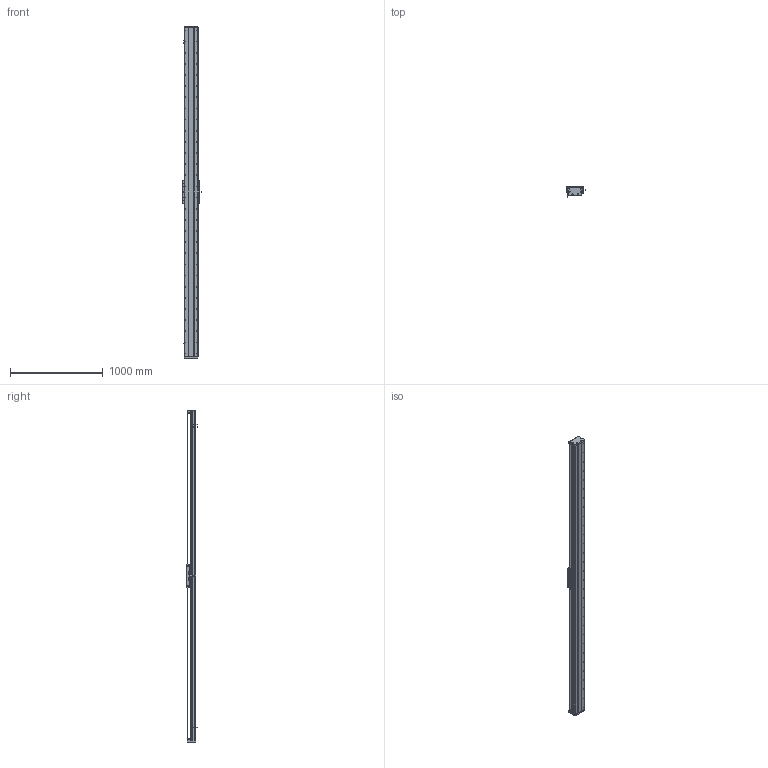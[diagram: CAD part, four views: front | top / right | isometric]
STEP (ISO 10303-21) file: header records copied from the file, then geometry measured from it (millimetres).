
FILE_DESCRIPTION (( 'STEP AP203' ), '1' );
FILE_NAME ('DA-C145-C3-T3240-C010-0.2 眻盄萇儂.STEP', '2025-08-14T01:38:01', ( '' ), ( '' ), 'SwSTEP 2.0', 'SolidWorks 2019', '' );
FILE_SCHEMA (( 'CONFIG_CONTROL_DESIGN' ));
Length unit declared in the file: millimetre
Products named in the file (32): 复件 纯铜油杯 6x6mm^CU145-W 滚珠滑台; 复件 DA95-DB-00  挡板^CU145-W 滚珠滑台; 葩璃 DA95-GT-T-00^IU-CU145-L 菁釱絳寢; TAY01-M8; 葩璃 DA145-C3-DP-A-00 菜えA^CU145-W 幗紩賑怢; 葩璃 CU145 詩湍郪璃^DA-C145-C3-T-C010-0.2; DA-C145-C3-T3240-C010-0.2 眻盄萇儂; 复件 半圆头内六角螺钉 M3×6^CU145-W 滚珠滑台; 复件 DA95-HK-GT-00 滑块钢轨^CU145-W-00 一体化滑动台板; 葩璃 CKMA01-W060-TRL^DA-C145-C3-T-C010-0.2; 葩璃 鞠褒情蹟譫 M3^DA-C145-C3-T-C010-0.2; 复件 DA95-MFP-01 密封片^CU145-W 滚珠滑台; 葩璃 XD-U-02L 棠掑喜^DA-C145-C3-T-C010-0.2; 葩璃 DMA-010-0.2 黍杅芛^DA-C145-C3-T-C010-0.2; 葩璃 DA95-HXJ-00 遣喳砎蝶^DA-C145-C3-T-C010-0.2; CU145-W-00 珨极趙賑雄怢啣; 复件 内六角平端紧定螺钉 GB.T77-2000 M5×10^CU145-W 滚珠滑台; 葩璃 PM-T45^DA-C145-C3-T-C010-0.2; 复件 DA145 钢带^复件 CU145 钢带组件_DA-C145-C3-T-C010-0.2; 复件 DA145-C3-YB-B-00 压板B^CU145-W 滚珠滑台; 复件 DA145-C3-DK-00 挡块^CU145-W 滚珠滑台; 66245-CU145-HT-W-00 賑雄怢啣(3D芞祧)(00); IU-CU145-L-00 菁釱(L3540); 葩璃 DA145-C3-DP-B-00 菜えB^CU145-W 幗紩賑怢; IU-CU145-L 菁釱絳寢; 复件 DA146 钢带垫块^复件 CU145 钢带组件_DA-C145-C3-T-C010-0.2; 复件 DA145-DG 钢带端盖^复件 CU145 钢带组件_DA-C145-C3-T-C010-0.2; 复件 DA145-GYP-00 光电感应片^DA-C145-C3-T-C010-0.2; 葩璃 CKM03-W060-C1C2-TP-0.2^DA-C145-C3-T-C010-0.2; CU145-W 幗紩賑怢; 复件 DA146 钢带拉块^复件 CU145 钢带组件_DA-C145-C3-T-C010-0.2; 复件 DA145-C3-YB-A-00 压板A^CU145-W 滚珠滑台
Assembly tree (103 placements, depth 4):
  DA-C145-C3-T3240-C010-0.2 眻盄萇儂
    IU-CU145-L 菁釱絳寢
      IU-CU145-L-00 菁釱(L3540)
      葩璃 DA95-GT-T-00^IU-CU145-L 菁釱絳寢  x4
    葩璃 CU145 詩湍郪璃^DA-C145-C3-T-C010-0.2
      复件 DA145-DG 钢带端盖^复件 CU145 钢带组件_DA-C145-C3-T-C010-0.2  x2
      复件 DA146 钢带拉块^复件 CU145 钢带组件_DA-C145-C3-T-C010-0.2  x2
      复件 DA146 钢带垫块^复件 CU145 钢带组件_DA-C145-C3-T-C010-0.2  x2
      复件 DA145 钢带^复件 CU145 钢带组件_DA-C145-C3-T-C010-0.2
    CU145-W 幗紩賑怢
      CU145-W-00 珨极趙賑雄怢啣
        66245-CU145-HT-W-00 賑雄怢啣(3D芞祧)(00)
        复件 DA95-HK-GT-00 滑块钢轨^CU145-W-00 一体化滑动台板  x8
      复件 DA95-MFP-01 密封片^CU145-W 滚珠滑台  x8
      复件 DA95-DB-00  挡板^CU145-W 滚珠滑台  x8
      复件 内六角平端紧定螺钉 GB.T77-2000 M5×10^CU145-W 滚珠滑台  x4
      复件 纯铜油杯 6x6mm^CU145-W 滚珠滑台  x4
      复件 半圆头内六角螺钉 M3×6^CU145-W 滚珠滑台  x16
      复件 DA145-C3-DK-00 挡块^CU145-W 滚珠滑台  x4
      葩璃 DA145-C3-DP-B-00 菜えB^CU145-W 幗紩賑怢  x2
      复件 DA145-C3-YB-B-00 压板B^CU145-W 滚珠滑台  x2
      葩璃 DA145-C3-DP-A-00 菜えA^CU145-W 幗紩賑怢  x3
      复件 DA145-C3-YB-A-00 压板A^CU145-W 滚珠滑台  x3
      TAY01-M8  x4
    葩璃 CKMA01-W060-TRL^DA-C145-C3-T-C010-0.2
    葩璃 PM-T45^DA-C145-C3-T-C010-0.2  x3
    葩璃 XD-U-02L 棠掑喜^DA-C145-C3-T-C010-0.2
    葩璃 DA95-HXJ-00 遣喳砎蝶^DA-C145-C3-T-C010-0.2  x4
    复件 DA145-GYP-00 光电感应片^DA-C145-C3-T-C010-0.2
    葩璃 DMA-010-0.2 黍杅芛^DA-C145-C3-T-C010-0.2
    葩璃 CKM03-W060-C1C2-TP-0.2^DA-C145-C3-T-C010-0.2
    葩璃 鞠褒情蹟譫 M3^DA-C145-C3-T-C010-0.2  x8
Bounding box: 203.5 x 108.45 x 3576 mm (x, y, z)
Volume: 16042686 mm3; surface area: 5463487.9 mm2
Topology: 99 solids, 131 shells, 5029 faces, 14858 edges, 9370 vertices
Faces by surface type: cylinder 2649, plane 1612, cone 690, torus 74, sphere 4
Entity records: 150752 total; most frequent: CARTESIAN_POINT 47694, ORIENTED_EDGE 21236, DIRECTION 19625, EDGE_CURVE 10618, AXIS2_PLACEMENT_3D 7392, VERTEX_POINT 6909, VECTOR 4841, LINE 4841
